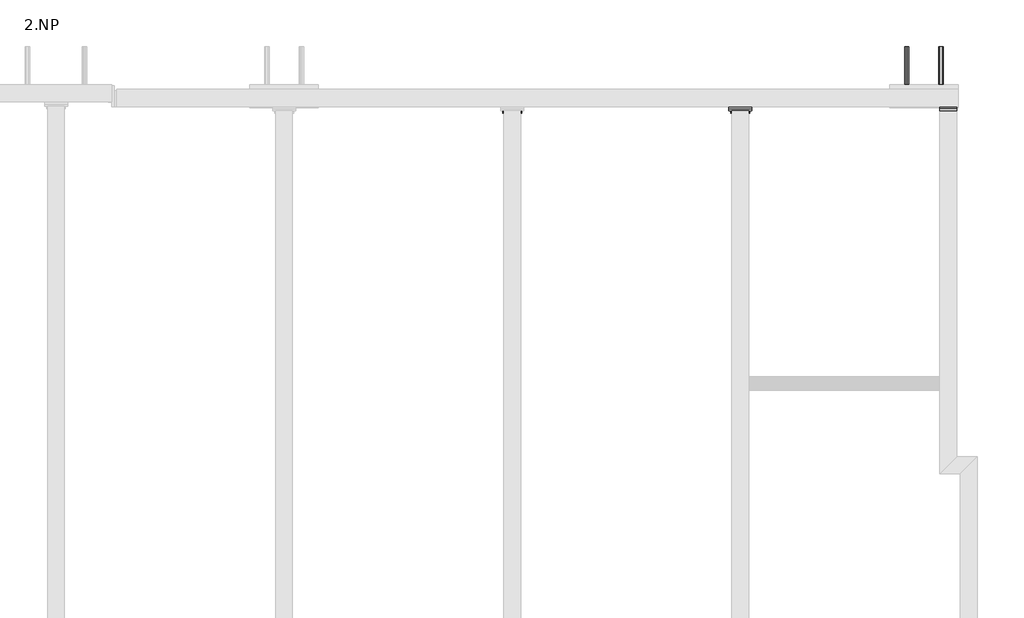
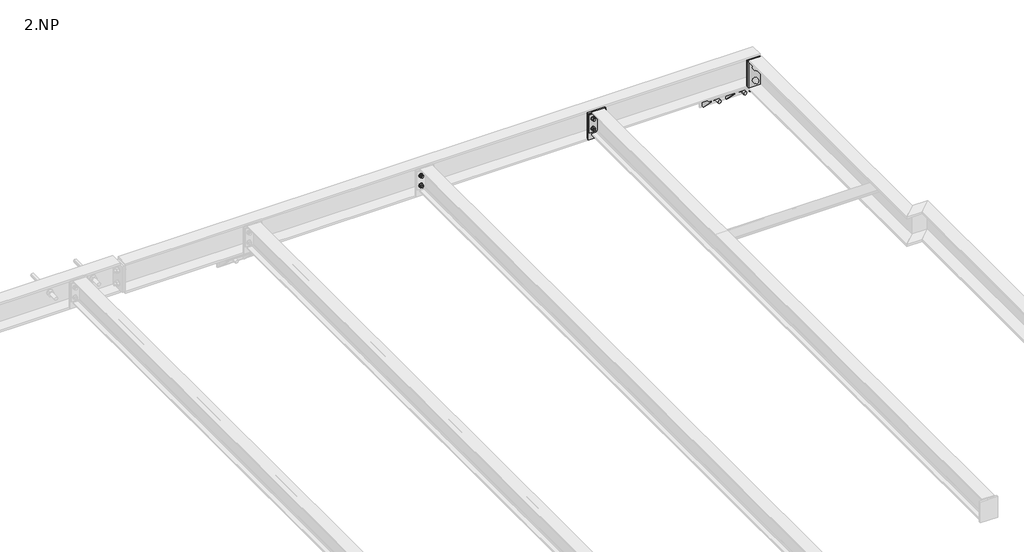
# One storey, part 15 of 18: 12 proxies.
"""IFC4 building model written with IfcOpenShell, lengths in millimetres."""

from ifc_helpers import new_model, si_unit, point, frame, frame_2d, origin, place, context, project, spatial, polyline, circle_curve, trimmed, segment, composite_curve, outline, extrude, element, save

model = new_model("IFC4")

# Units and contexts
model_context = context("Model", 3, world=origin())
ifc_project = project(units=[si_unit("LENGTHUNIT", "METRE", prefix="MILLI")], contexts=[model_context])

# Site, building, storey
site = spatial("IfcSite", under=ifc_project)
building = spatial("IfcBuilding", under=site)
storey = spatial("IfcBuildingStorey", under=building, Name="2.NP", Elevation=3000.0)

# Proxies
placement = place(None, origin())
element("IfcBuildingElementProxy", 1, Name="PLECH", ObjectType="PLECH", at=placement, inside=storey, context=model_context, shape_type="SweptSolid", body=[
    extrude(outline(polyline([(15000.0, 3755.0), (15100.0, 3755.0), (15100.0, 3747.0), (15000.0, 3747.0), (15000.0, 3755.0)])), frame((0.0, 0.0, 3175.0), z_axis=(0.0, 0.0, 1.0), x_axis=(1.0, 0.0, 0.0)), (0.0, 0.0, 1.0), 110.0),
])
element("IfcBuildingElementProxy", 2, Name="PLECH", ObjectType="PLECH", at=placement, inside=storey, context=model_context, shape_type="SweptSolid", body=[
    extrude(outline(polyline([(15925.0, 3755.0), (16000.0, 3755.0), (16000.0, 3745.0), (15925.0, 3745.0), (15925.0, 3755.0)])), frame((0.0, 0.0, 3130.0), z_axis=(0.0, 0.0, 1.0), x_axis=(1.0, 0.0, 0.0)), (0.0, 0.0, 1.0), 160.0),
])
element("IfcBuildingElementProxy", 3, Name="PLECH", ObjectType="PLECH", at=placement, inside=storey, context=model_context, shape_type="SweptSolid", body=[
    extrude(outline(composite_curve([segment(polyline([(3770.0, 3110.0), (3835.0, 3110.0)]), True, "CONTINUOUS"), segment(trimmed(circle_curve(frame_2d((3850.0, 3110.0)), 15.0), [point((3835.0, 3110.0))], [point((3850.0, 3095.0))], True, "CARTESIAN"), True, "CONTINUOUS"), segment(polyline([(3850.0, 3095.0), (3850.0, 3030.0), (3840.0, 3030.0), (3770.0, 3100.0), (3770.0, 3110.0)]), True, "CONTINUOUS")], self_intersect=False)), frame((15715.0, 0.0, 0.0), z_axis=(1.0, 0.0, 0.0), x_axis=(0.0, 1.0, 0.0)), (0.0, 0.0, 1.0), 8.0),
])
element("IfcBuildingElementProxy", 4, Name="PLECH", ObjectType="PLECH", at=placement, inside=storey, context=model_context, shape_type="SweptSolid", body=[
    extrude(outline(composite_curve([segment(polyline([(3770.0, 3110.0), (3835.0, 3110.0)]), True, "CONTINUOUS"), segment(trimmed(circle_curve(frame_2d((3850.0, 3110.0)), 15.0), [point((3835.0, 3110.0))], [point((3850.0, 3095.0))], True, "CARTESIAN"), True, "CONTINUOUS"), segment(polyline([(3850.0, 3095.0), (3850.0, 3030.0), (3840.0, 3030.0), (3770.0, 3100.0), (3770.0, 3110.0)]), True, "CONTINUOUS")], self_intersect=False)), frame((15987.0, 0.0, 0.0), z_axis=(1.0, 0.0, 0.0), x_axis=(0.0, 1.0, 0.0)), (0.0, 0.0, 1.0), 8.0),
])
element("IfcBuildingElementProxy", 5, Name="PLECH", ObjectType="PLECH", at=placement, inside=storey, context=model_context, shape_type="SweptSolid", body=[
    extrude(outline(composite_curve([segment(polyline([(3770.0, 3110.0), (3835.0, 3110.0)]), True, "CONTINUOUS"), segment(trimmed(circle_curve(frame_2d((3850.0, 3110.0)), 15.0), [point((3835.0, 3110.0))], [point((3850.0, 3095.0))], True, "CARTESIAN"), True, "CONTINUOUS"), segment(polyline([(3850.0, 3095.0), (3850.0, 3030.0), (3840.0, 3030.0), (3770.0, 3100.0), (3770.0, 3110.0)]), True, "CONTINUOUS")], self_intersect=False)), frame((15851.0, 0.0, 0.0), z_axis=(1.0, 0.0, 0.0), x_axis=(0.0, 1.0, 0.0)), (0.0, 0.0, 1.0), 8.0),
])
element("IfcBuildingElementProxy", 6, Name="PLECH", ObjectType="PLECH", at=placement, inside=storey, context=model_context, shape_type="SweptSolid", body=[
    extrude(outline(polyline([(15000.0, 3765.0), (15100.0, 3765.0), (15100.0, 3755.0), (15000.0, 3755.0), (15000.0, 3765.0)])), frame((0.0, 0.0, 3128.0), z_axis=(0.0, 0.0, 1.0), x_axis=(1.0, 0.0, 0.0)), (0.0, 0.0, 1.0), 164.0),
])
element("IfcBuildingElementProxy", 7, Name="PLECH", ObjectType="PLECH", at=placement, inside=storey, context=model_context, shape_type="SweptSolid", body=[
    extrude(outline(composite_curve([segment(polyline([(3765.0, 3289.5), (3814.5, 3289.5)]), True, "CONTINUOUS"), segment(trimmed(circle_curve(frame_2d((3834.5, 3289.5)), 20.0), [point((3814.5, 3289.5))], [point((3834.5, 3269.5))], True, "CARTESIAN"), True, "CONTINUOUS"), segment(polyline([(3834.5, 3269.5), (3834.5, 3150.5)]), True, "CONTINUOUS"), segment(trimmed(circle_curve(frame_2d((3834.5, 3130.5)), 20.0), [point((3834.5, 3150.5))], [point((3814.5, 3130.5))], True, "CARTESIAN"), True, "CONTINUOUS"), segment(polyline([(3814.5, 3130.5), (3765.0, 3130.5), (3765.0, 3289.5)]), True, "CONTINUOUS")], self_intersect=False)), frame((15047.0, 0.0, 0.0), z_axis=(1.0, 0.0, 0.0), x_axis=(0.0, 1.0, 0.0)), (0.0, 0.0, 1.0), 6.0),
])
element("IfcBuildingElementProxy", 8, Name="PLECH", ObjectType="PLECH", at=placement, inside=storey, context=model_context, shape_type="SweptSolid", body=[
    extrude(outline(polyline([(15925.0, 3765.0), (16000.0, 3765.0), (16000.0, 3755.0), (15925.0, 3755.0), (15925.0, 3765.0)])), frame((0.0, 0.0, 3130.0), z_axis=(0.0, 0.0, 1.0), x_axis=(1.0, 0.0, 0.0)), (0.0, 0.0, 1.0), 160.0),
])
element("IfcBuildingElementProxy", 9, Name="PLECH", ObjectType="PLECH", at=placement, inside=storey, context=model_context, shape_type="SweptSolid", body=[
    extrude(outline(composite_curve([segment(polyline([(3765.0, 3289.5), (3814.5, 3289.5)]), True, "CONTINUOUS"), segment(trimmed(circle_curve(frame_2d((3834.5, 3289.5)), 20.0), [point((3814.5, 3289.5))], [point((3834.5, 3269.5))], True, "CARTESIAN"), True, "CONTINUOUS"), segment(polyline([(3834.5, 3269.5), (3834.5, 3150.5)]), True, "CONTINUOUS"), segment(trimmed(circle_curve(frame_2d((3834.5, 3130.5)), 20.0), [point((3834.5, 3150.5))], [point((3814.5, 3130.5))], True, "CARTESIAN"), True, "CONTINUOUS"), segment(polyline([(3814.5, 3130.5), (3765.0, 3130.5), (3765.0, 3289.5)]), True, "CONTINUOUS")], self_intersect=False)), frame((15986.5, 0.0, 0.0), z_axis=(1.0, 0.0, 0.0), x_axis=(0.0, 1.0, 0.0)), (0.0, 0.0, 1.0), 8.0),
])
element("IfcBuildingElementProxy", 10, Name="Bolt assembly", ObjectType="Bolt assembly", at=placement, inside=storey, context=model_context, shape_type="SweptSolid", body=[
    extrude(outline(polyline([(3070.0, 15789.8149546), (3078.5, 15784.9074773), (3078.5, 15775.0925227), (3070.0, 15770.1850454), (3061.5, 15775.0925227), (3061.5, 15784.9074773), (3070.0, 15789.8149546)])), frame((0.0, 3860.0, 0.0), z_axis=(0.0, 1.0, 0.0), x_axis=(0.0, 0.0, 1.0)), (0.0, 0.0, 1.0), 168.0),
    extrude(outline(composite_curve([segment(trimmed(circle_curve(frame_2d((3070.0, 15780.0)), 10.0), [point((3070.0, 15790.0))], [point((3070.0, 15770.0))], False, "CARTESIAN"), True, "CONTINUOUS"), segment(trimmed(circle_curve(frame_2d((3070.0, 15780.0)), 10.0), [point((3070.0, 15770.0))], [point((3070.0, 15790.0))], False, "CARTESIAN"), True, "CONTINUOUS")], self_intersect=False)), frame((0.0, 3788.0, 0.0), z_axis=(0.0, 1.0, 0.0), x_axis=(0.0, 0.0, 1.0)), (0.0, 0.0, 1.0), 72.0),
    extrude(outline(composite_curve([segment(trimmed(circle_curve(frame_2d((3070.0, 15780.0)), 18.5), [point((3070.0, 15798.5))], [point((3070.0, 15761.5))], False, "CARTESIAN"), True, "CONTINUOUS"), segment(trimmed(circle_curve(frame_2d((3070.0, 15780.0)), 18.5), [point((3070.0, 15761.5))], [point((3070.0, 15798.5))], False, "CARTESIAN"), True, "CONTINUOUS")], self_intersect=False)), frame((0.0, 3847.0, 0.0), z_axis=(0.0, 1.0, 0.0), x_axis=(0.0, 0.0, 1.0)), (0.0, 0.0, 1.0), 3.0),
    extrude(outline(polyline([(3070.0, 15797.3205081), (3085.0, 15788.660254), (3085.0, 15771.339746), (3070.0, 15762.6794919), (3055.0, 15771.339746), (3055.0, 15788.660254), (3070.0, 15797.3205081)])), frame((0.0, 3831.0, 0.0), z_axis=(0.0, 1.0, 0.0), x_axis=(0.0, 0.0, 1.0)), (0.0, 0.0, 1.0), 16.0),
    extrude(outline(composite_curve([segment(trimmed(circle_curve(frame_2d((3070.0, 15780.0)), 11.0), [point((3070.0, 15791.0))], [point((3070.0, 15769.0))], False, "CARTESIAN"), True, "CONTINUOUS"), segment(trimmed(circle_curve(frame_2d((3070.0, 15780.0)), 11.0), [point((3070.0, 15769.0))], [point((3070.0, 15791.0))], False, "CARTESIAN"), True, "CONTINUOUS")], self_intersect=False)), frame((0.0, 3849.9, 0.0), z_axis=(0.0, 1.0, 0.0), x_axis=(0.0, 0.0, 1.0)), (0.0, 0.0, 1.0), 10.1),
    extrude(outline(polyline([(3070.0, 15939.8149546), (3078.5, 15934.9074773), (3078.5, 15925.0925227), (3070.0, 15920.1850454), (3061.5, 15925.0925227), (3061.5, 15934.9074773), (3070.0, 15939.8149546)])), frame((0.0, 3860.0, 0.0), z_axis=(0.0, 1.0, 0.0), x_axis=(0.0, 0.0, 1.0)), (0.0, 0.0, 1.0), 168.0),
    extrude(outline(composite_curve([segment(trimmed(circle_curve(frame_2d((3070.0, 15930.0)), 10.0), [point((3070.0, 15940.0))], [point((3070.0, 15920.0))], False, "CARTESIAN"), True, "CONTINUOUS"), segment(trimmed(circle_curve(frame_2d((3070.0, 15930.0)), 10.0), [point((3070.0, 15920.0))], [point((3070.0, 15940.0))], False, "CARTESIAN"), True, "CONTINUOUS")], self_intersect=False)), frame((0.0, 3788.0, 0.0), z_axis=(0.0, 1.0, 0.0), x_axis=(0.0, 0.0, 1.0)), (0.0, 0.0, 1.0), 72.0),
    extrude(outline(composite_curve([segment(trimmed(circle_curve(frame_2d((3070.0, 15930.0)), 18.5), [point((3070.0, 15948.5))], [point((3070.0, 15911.5))], False, "CARTESIAN"), True, "CONTINUOUS"), segment(trimmed(circle_curve(frame_2d((3070.0, 15930.0)), 18.5), [point((3070.0, 15911.5))], [point((3070.0, 15948.5))], False, "CARTESIAN"), True, "CONTINUOUS")], self_intersect=False)), frame((0.0, 3847.0, 0.0), z_axis=(0.0, 1.0, 0.0), x_axis=(0.0, 0.0, 1.0)), (0.0, 0.0, 1.0), 3.0),
    extrude(outline(polyline([(3070.0, 15947.3205081), (3085.0, 15938.660254), (3085.0, 15921.339746), (3070.0, 15912.6794919), (3055.0, 15921.339746), (3055.0, 15938.660254), (3070.0, 15947.3205081)])), frame((0.0, 3831.0, 0.0), z_axis=(0.0, 1.0, 0.0), x_axis=(0.0, 0.0, 1.0)), (0.0, 0.0, 1.0), 16.0),
    extrude(outline(composite_curve([segment(trimmed(circle_curve(frame_2d((3070.0, 15930.0)), 11.0), [point((3070.0, 15941.0))], [point((3070.0, 15919.0))], False, "CARTESIAN"), True, "CONTINUOUS"), segment(trimmed(circle_curve(frame_2d((3070.0, 15930.0)), 11.0), [point((3070.0, 15919.0))], [point((3070.0, 15941.0))], False, "CARTESIAN"), True, "CONTINUOUS")], self_intersect=False)), frame((0.0, 3849.9, 0.0), z_axis=(0.0, 1.0, 0.0), x_axis=(0.0, 0.0, 1.0)), (0.0, 0.0, 1.0), 10.1),
])
element("IfcBuildingElementProxy", 11, Name="Bolt assembly", ObjectType="Bolt assembly", at=placement, inside=storey, context=model_context, shape_type="SweptSolid", body=[
    extrude(outline(composite_curve([segment(trimmed(circle_curve(frame_2d((3260.0, 14020.0)), 6.5), [point((3260.0, 14026.5))], [point((3260.0, 14013.5))], False, "CARTESIAN"), True, "CONTINUOUS"), segment(trimmed(circle_curve(frame_2d((3260.0, 14020.0)), 6.5), [point((3260.0, 14013.5))], [point((3260.0, 14026.5))], False, "CARTESIAN"), True, "CONTINUOUS")], self_intersect=False)), frame((0.0, 3754.9, 0.0), z_axis=(0.0, 1.0, 0.0), x_axis=(0.0, 0.0, 1.0)), (0.0, 0.0, 1.0), 10.0),
    extrude(outline(polyline([(3260.0, 14030.9696551), (3269.5, 14025.4848276), (3269.5, 14014.5151724), (3260.0, 14009.0303449), (3250.5, 14014.5151724), (3250.5, 14025.4848276), (3260.0, 14030.9696551)])), frame((0.0, 3767.5, 0.0), z_axis=(0.0, 1.0, 0.0), x_axis=(0.0, 0.0, 1.0)), (0.0, 0.0, 1.0), 7.5),
    extrude(outline(composite_curve([segment(trimmed(circle_curve(frame_2d((3260.0, 14020.0)), 6.0), [point((3260.0, 14026.0))], [point((3260.0, 14014.0))], False, "CARTESIAN"), True, "CONTINUOUS"), segment(trimmed(circle_curve(frame_2d((3260.0, 14020.0)), 6.0), [point((3260.0, 14014.0))], [point((3260.0, 14026.0))], False, "CARTESIAN"), True, "CONTINUOUS")], self_intersect=False)), frame((0.0, 3727.5, 0.0), z_axis=(0.0, 1.0, 0.0), x_axis=(0.0, 0.0, 1.0)), (0.0, 0.0, 1.0), 40.0),
    extrude(outline(composite_curve([segment(trimmed(circle_curve(frame_2d((3260.0, 14020.0)), 12.0), [point((3260.0, 14032.0))], [point((3260.0, 14008.0))], False, "CARTESIAN"), True, "CONTINUOUS"), segment(trimmed(circle_curve(frame_2d((3260.0, 14020.0)), 12.0), [point((3260.0, 14008.0))], [point((3260.0, 14032.0))], False, "CARTESIAN"), True, "CONTINUOUS")], self_intersect=False)), frame((0.0, 3765.0, 0.0), z_axis=(0.0, 1.0, 0.0), x_axis=(0.0, 0.0, 1.0)), (0.0, 0.0, 1.0), 2.5),
    extrude(outline(composite_curve([segment(trimmed(circle_curve(frame_2d((3260.0, 14020.0)), 12.0), [point((3260.0, 14032.0))], [point((3260.0, 14008.0))], False, "CARTESIAN"), True, "CONTINUOUS"), segment(trimmed(circle_curve(frame_2d((3260.0, 14020.0)), 12.0), [point((3260.0, 14008.0))], [point((3260.0, 14032.0))], False, "CARTESIAN"), True, "CONTINUOUS")], self_intersect=False)), frame((0.0, 3744.5, 0.0), z_axis=(0.0, 1.0, 0.0), x_axis=(0.0, 0.0, 1.0)), (0.0, 0.0, 1.0), 2.5),
    extrude(outline(polyline([(3260.0, 14030.9696551), (3269.5, 14025.4848276), (3269.5, 14014.5151724), (3260.0, 14009.0303449), (3250.5, 14014.5151724), (3250.5, 14025.4848276), (3260.0, 14030.9696551)])), frame((0.0, 3734.5, 0.0), z_axis=(0.0, 1.0, 0.0), x_axis=(0.0, 0.0, 1.0)), (0.0, 0.0, 1.0), 10.0),
    extrude(outline(composite_curve([segment(trimmed(circle_curve(frame_2d((3260.0, 14020.0)), 6.5), [point((3260.0, 14026.5))], [point((3260.0, 14013.5))], False, "CARTESIAN"), True, "CONTINUOUS"), segment(trimmed(circle_curve(frame_2d((3260.0, 14020.0)), 6.5), [point((3260.0, 14013.5))], [point((3260.0, 14026.5))], False, "CARTESIAN"), True, "CONTINUOUS")], self_intersect=False)), frame((0.0, 3747.0, 0.0), z_axis=(0.0, 1.0, 0.0), x_axis=(0.0, 0.0, 1.0)), (0.0, 0.0, 1.0), 8.1),
    extrude(outline(composite_curve([segment(trimmed(circle_curve(frame_2d((3260.0, 14080.0)), 6.5), [point((3260.0, 14086.5))], [point((3260.0, 14073.5))], False, "CARTESIAN"), True, "CONTINUOUS"), segment(trimmed(circle_curve(frame_2d((3260.0, 14080.0)), 6.5), [point((3260.0, 14073.5))], [point((3260.0, 14086.5))], False, "CARTESIAN"), True, "CONTINUOUS")], self_intersect=False)), frame((0.0, 3754.9, 0.0), z_axis=(0.0, 1.0, 0.0), x_axis=(0.0, 0.0, 1.0)), (0.0, 0.0, 1.0), 10.0),
    extrude(outline(polyline([(3260.0, 14090.9696551), (3269.5, 14085.4848276), (3269.5, 14074.5151724), (3260.0, 14069.0303449), (3250.5, 14074.5151724), (3250.5, 14085.4848276), (3260.0, 14090.9696551)])), frame((0.0, 3767.5, 0.0), z_axis=(0.0, 1.0, 0.0), x_axis=(0.0, 0.0, 1.0)), (0.0, 0.0, 1.0), 7.5),
    extrude(outline(composite_curve([segment(trimmed(circle_curve(frame_2d((3260.0, 14080.0)), 6.0), [point((3260.0, 14086.0))], [point((3260.0, 14074.0))], False, "CARTESIAN"), True, "CONTINUOUS"), segment(trimmed(circle_curve(frame_2d((3260.0, 14080.0)), 6.0), [point((3260.0, 14074.0))], [point((3260.0, 14086.0))], False, "CARTESIAN"), True, "CONTINUOUS")], self_intersect=False)), frame((0.0, 3727.5, 0.0), z_axis=(0.0, 1.0, 0.0), x_axis=(0.0, 0.0, 1.0)), (0.0, 0.0, 1.0), 40.0),
    extrude(outline(composite_curve([segment(trimmed(circle_curve(frame_2d((3260.0, 14080.0)), 12.0), [point((3260.0, 14092.0))], [point((3260.0, 14068.0))], False, "CARTESIAN"), True, "CONTINUOUS"), segment(trimmed(circle_curve(frame_2d((3260.0, 14080.0)), 12.0), [point((3260.0, 14068.0))], [point((3260.0, 14092.0))], False, "CARTESIAN"), True, "CONTINUOUS")], self_intersect=False)), frame((0.0, 3765.0, 0.0), z_axis=(0.0, 1.0, 0.0), x_axis=(0.0, 0.0, 1.0)), (0.0, 0.0, 1.0), 2.5),
    extrude(outline(composite_curve([segment(trimmed(circle_curve(frame_2d((3260.0, 14080.0)), 12.0), [point((3260.0, 14092.0))], [point((3260.0, 14068.0))], False, "CARTESIAN"), True, "CONTINUOUS"), segment(trimmed(circle_curve(frame_2d((3260.0, 14080.0)), 12.0), [point((3260.0, 14068.0))], [point((3260.0, 14092.0))], False, "CARTESIAN"), True, "CONTINUOUS")], self_intersect=False)), frame((0.0, 3744.5, 0.0), z_axis=(0.0, 1.0, 0.0), x_axis=(0.0, 0.0, 1.0)), (0.0, 0.0, 1.0), 2.5),
    extrude(outline(polyline([(3260.0, 14090.9696551), (3269.5, 14085.4848276), (3269.5, 14074.5151724), (3260.0, 14069.0303449), (3250.5, 14074.5151724), (3250.5, 14085.4848276), (3260.0, 14090.9696551)])), frame((0.0, 3734.5, 0.0), z_axis=(0.0, 1.0, 0.0), x_axis=(0.0, 0.0, 1.0)), (0.0, 0.0, 1.0), 10.0),
    extrude(outline(composite_curve([segment(trimmed(circle_curve(frame_2d((3260.0, 14080.0)), 6.5), [point((3260.0, 14086.5))], [point((3260.0, 14073.5))], False, "CARTESIAN"), True, "CONTINUOUS"), segment(trimmed(circle_curve(frame_2d((3260.0, 14080.0)), 6.5), [point((3260.0, 14073.5))], [point((3260.0, 14086.5))], False, "CARTESIAN"), True, "CONTINUOUS")], self_intersect=False)), frame((0.0, 3747.0, 0.0), z_axis=(0.0, 1.0, 0.0), x_axis=(0.0, 0.0, 1.0)), (0.0, 0.0, 1.0), 8.1),
    extrude(outline(composite_curve([segment(trimmed(circle_curve(frame_2d((3200.0, 14020.0)), 6.5), [point((3200.0, 14026.5))], [point((3200.0, 14013.5))], False, "CARTESIAN"), True, "CONTINUOUS"), segment(trimmed(circle_curve(frame_2d((3200.0, 14020.0)), 6.5), [point((3200.0, 14013.5))], [point((3200.0, 14026.5))], False, "CARTESIAN"), True, "CONTINUOUS")], self_intersect=False)), frame((0.0, 3754.9, 0.0), z_axis=(0.0, 1.0, 0.0), x_axis=(0.0, 0.0, 1.0)), (0.0, 0.0, 1.0), 10.0),
    extrude(outline(polyline([(3200.0, 14030.9696551), (3209.5, 14025.4848276), (3209.5, 14014.5151724), (3200.0, 14009.0303449), (3190.5, 14014.5151724), (3190.5, 14025.4848276), (3200.0, 14030.9696551)])), frame((0.0, 3767.5, 0.0), z_axis=(0.0, 1.0, 0.0), x_axis=(0.0, 0.0, 1.0)), (0.0, 0.0, 1.0), 7.5),
    extrude(outline(composite_curve([segment(trimmed(circle_curve(frame_2d((3200.0, 14020.0)), 6.0), [point((3200.0, 14026.0))], [point((3200.0, 14014.0))], False, "CARTESIAN"), True, "CONTINUOUS"), segment(trimmed(circle_curve(frame_2d((3200.0, 14020.0)), 6.0), [point((3200.0, 14014.0))], [point((3200.0, 14026.0))], False, "CARTESIAN"), True, "CONTINUOUS")], self_intersect=False)), frame((0.0, 3727.5, 0.0), z_axis=(0.0, 1.0, 0.0), x_axis=(0.0, 0.0, 1.0)), (0.0, 0.0, 1.0), 40.0),
    extrude(outline(composite_curve([segment(trimmed(circle_curve(frame_2d((3200.0, 14020.0)), 12.0), [point((3200.0, 14032.0))], [point((3200.0, 14008.0))], False, "CARTESIAN"), True, "CONTINUOUS"), segment(trimmed(circle_curve(frame_2d((3200.0, 14020.0)), 12.0), [point((3200.0, 14008.0))], [point((3200.0, 14032.0))], False, "CARTESIAN"), True, "CONTINUOUS")], self_intersect=False)), frame((0.0, 3765.0, 0.0), z_axis=(0.0, 1.0, 0.0), x_axis=(0.0, 0.0, 1.0)), (0.0, 0.0, 1.0), 2.5),
    extrude(outline(composite_curve([segment(trimmed(circle_curve(frame_2d((3200.0, 14020.0)), 12.0), [point((3200.0, 14032.0))], [point((3200.0, 14008.0))], False, "CARTESIAN"), True, "CONTINUOUS"), segment(trimmed(circle_curve(frame_2d((3200.0, 14020.0)), 12.0), [point((3200.0, 14008.0))], [point((3200.0, 14032.0))], False, "CARTESIAN"), True, "CONTINUOUS")], self_intersect=False)), frame((0.0, 3744.5, 0.0), z_axis=(0.0, 1.0, 0.0), x_axis=(0.0, 0.0, 1.0)), (0.0, 0.0, 1.0), 2.5),
    extrude(outline(polyline([(3200.0, 14030.9696551), (3209.5, 14025.4848276), (3209.5, 14014.5151724), (3200.0, 14009.0303449), (3190.5, 14014.5151724), (3190.5, 14025.4848276), (3200.0, 14030.9696551)])), frame((0.0, 3734.5, 0.0), z_axis=(0.0, 1.0, 0.0), x_axis=(0.0, 0.0, 1.0)), (0.0, 0.0, 1.0), 10.0),
    extrude(outline(composite_curve([segment(trimmed(circle_curve(frame_2d((3200.0, 14020.0)), 6.5), [point((3200.0, 14026.5))], [point((3200.0, 14013.5))], False, "CARTESIAN"), True, "CONTINUOUS"), segment(trimmed(circle_curve(frame_2d((3200.0, 14020.0)), 6.5), [point((3200.0, 14013.5))], [point((3200.0, 14026.5))], False, "CARTESIAN"), True, "CONTINUOUS")], self_intersect=False)), frame((0.0, 3747.0, 0.0), z_axis=(0.0, 1.0, 0.0), x_axis=(0.0, 0.0, 1.0)), (0.0, 0.0, 1.0), 8.1),
    extrude(outline(composite_curve([segment(trimmed(circle_curve(frame_2d((3200.0, 14080.0)), 6.5), [point((3200.0, 14086.5))], [point((3200.0, 14073.5))], False, "CARTESIAN"), True, "CONTINUOUS"), segment(trimmed(circle_curve(frame_2d((3200.0, 14080.0)), 6.5), [point((3200.0, 14073.5))], [point((3200.0, 14086.5))], False, "CARTESIAN"), True, "CONTINUOUS")], self_intersect=False)), frame((0.0, 3754.9, 0.0), z_axis=(0.0, 1.0, 0.0), x_axis=(0.0, 0.0, 1.0)), (0.0, 0.0, 1.0), 10.0),
    extrude(outline(polyline([(3200.0, 14090.9696551), (3209.5, 14085.4848276), (3209.5, 14074.5151724), (3200.0, 14069.0303449), (3190.5, 14074.5151724), (3190.5, 14085.4848276), (3200.0, 14090.9696551)])), frame((0.0, 3767.5, 0.0), z_axis=(0.0, 1.0, 0.0), x_axis=(0.0, 0.0, 1.0)), (0.0, 0.0, 1.0), 7.5),
    extrude(outline(composite_curve([segment(trimmed(circle_curve(frame_2d((3200.0, 14080.0)), 6.0), [point((3200.0, 14086.0))], [point((3200.0, 14074.0))], False, "CARTESIAN"), True, "CONTINUOUS"), segment(trimmed(circle_curve(frame_2d((3200.0, 14080.0)), 6.0), [point((3200.0, 14074.0))], [point((3200.0, 14086.0))], False, "CARTESIAN"), True, "CONTINUOUS")], self_intersect=False)), frame((0.0, 3727.5, 0.0), z_axis=(0.0, 1.0, 0.0), x_axis=(0.0, 0.0, 1.0)), (0.0, 0.0, 1.0), 40.0),
    extrude(outline(composite_curve([segment(trimmed(circle_curve(frame_2d((3200.0, 14080.0)), 12.0), [point((3200.0, 14092.0))], [point((3200.0, 14068.0))], False, "CARTESIAN"), True, "CONTINUOUS"), segment(trimmed(circle_curve(frame_2d((3200.0, 14080.0)), 12.0), [point((3200.0, 14068.0))], [point((3200.0, 14092.0))], False, "CARTESIAN"), True, "CONTINUOUS")], self_intersect=False)), frame((0.0, 3765.0, 0.0), z_axis=(0.0, 1.0, 0.0), x_axis=(0.0, 0.0, 1.0)), (0.0, 0.0, 1.0), 2.5),
    extrude(outline(composite_curve([segment(trimmed(circle_curve(frame_2d((3200.0, 14080.0)), 12.0), [point((3200.0, 14092.0))], [point((3200.0, 14068.0))], False, "CARTESIAN"), True, "CONTINUOUS"), segment(trimmed(circle_curve(frame_2d((3200.0, 14080.0)), 12.0), [point((3200.0, 14068.0))], [point((3200.0, 14092.0))], False, "CARTESIAN"), True, "CONTINUOUS")], self_intersect=False)), frame((0.0, 3744.5, 0.0), z_axis=(0.0, 1.0, 0.0), x_axis=(0.0, 0.0, 1.0)), (0.0, 0.0, 1.0), 2.5),
    extrude(outline(polyline([(3200.0, 14090.9696551), (3209.5, 14085.4848276), (3209.5, 14074.5151724), (3200.0, 14069.0303449), (3190.5, 14074.5151724), (3190.5, 14085.4848276), (3200.0, 14090.9696551)])), frame((0.0, 3734.5, 0.0), z_axis=(0.0, 1.0, 0.0), x_axis=(0.0, 0.0, 1.0)), (0.0, 0.0, 1.0), 10.0),
    extrude(outline(composite_curve([segment(trimmed(circle_curve(frame_2d((3200.0, 14080.0)), 6.5), [point((3200.0, 14086.5))], [point((3200.0, 14073.5))], False, "CARTESIAN"), True, "CONTINUOUS"), segment(trimmed(circle_curve(frame_2d((3200.0, 14080.0)), 6.5), [point((3200.0, 14073.5))], [point((3200.0, 14086.5))], False, "CARTESIAN"), True, "CONTINUOUS")], self_intersect=False)), frame((0.0, 3747.0, 0.0), z_axis=(0.0, 1.0, 0.0), x_axis=(0.0, 0.0, 1.0)), (0.0, 0.0, 1.0), 8.1),
])
element("IfcBuildingElementProxy", 12, Name="Bolt assembly", ObjectType="Bolt assembly", at=placement, inside=storey, context=model_context, shape_type="SweptSolid", body=[
    extrude(outline(composite_curve([segment(trimmed(circle_curve(frame_2d((3260.0, 15020.0)), 6.5), [point((3260.0, 15026.5))], [point((3260.0, 15013.5))], False, "CARTESIAN"), True, "CONTINUOUS"), segment(trimmed(circle_curve(frame_2d((3260.0, 15020.0)), 6.5), [point((3260.0, 15013.5))], [point((3260.0, 15026.5))], False, "CARTESIAN"), True, "CONTINUOUS")], self_intersect=False)), frame((0.0, 3754.9, 0.0), z_axis=(0.0, 1.0, 0.0), x_axis=(0.0, 0.0, 1.0)), (0.0, 0.0, 1.0), 10.0),
    extrude(outline(polyline([(3260.0, 15030.9696551), (3269.5, 15025.4848276), (3269.5, 15014.5151724), (3260.0, 15009.0303449), (3250.5, 15014.5151724), (3250.5, 15025.4848276), (3260.0, 15030.9696551)])), frame((0.0, 3767.5, 0.0), z_axis=(0.0, 1.0, 0.0), x_axis=(0.0, 0.0, 1.0)), (0.0, 0.0, 1.0), 7.5),
    extrude(outline(composite_curve([segment(trimmed(circle_curve(frame_2d((3260.0, 15020.0)), 6.0), [point((3260.0, 15026.0))], [point((3260.0, 15014.0))], False, "CARTESIAN"), True, "CONTINUOUS"), segment(trimmed(circle_curve(frame_2d((3260.0, 15020.0)), 6.0), [point((3260.0, 15014.0))], [point((3260.0, 15026.0))], False, "CARTESIAN"), True, "CONTINUOUS")], self_intersect=False)), frame((0.0, 3727.5, 0.0), z_axis=(0.0, 1.0, 0.0), x_axis=(0.0, 0.0, 1.0)), (0.0, 0.0, 1.0), 40.0),
    extrude(outline(composite_curve([segment(trimmed(circle_curve(frame_2d((3260.0, 15020.0)), 12.0), [point((3260.0, 15032.0))], [point((3260.0, 15008.0))], False, "CARTESIAN"), True, "CONTINUOUS"), segment(trimmed(circle_curve(frame_2d((3260.0, 15020.0)), 12.0), [point((3260.0, 15008.0))], [point((3260.0, 15032.0))], False, "CARTESIAN"), True, "CONTINUOUS")], self_intersect=False)), frame((0.0, 3765.0, 0.0), z_axis=(0.0, 1.0, 0.0), x_axis=(0.0, 0.0, 1.0)), (0.0, 0.0, 1.0), 2.5),
    extrude(outline(composite_curve([segment(trimmed(circle_curve(frame_2d((3260.0, 15020.0)), 12.0), [point((3260.0, 15032.0))], [point((3260.0, 15008.0))], False, "CARTESIAN"), True, "CONTINUOUS"), segment(trimmed(circle_curve(frame_2d((3260.0, 15020.0)), 12.0), [point((3260.0, 15008.0))], [point((3260.0, 15032.0))], False, "CARTESIAN"), True, "CONTINUOUS")], self_intersect=False)), frame((0.0, 3744.5, 0.0), z_axis=(0.0, 1.0, 0.0), x_axis=(0.0, 0.0, 1.0)), (0.0, 0.0, 1.0), 2.5),
    extrude(outline(polyline([(3260.0, 15030.9696551), (3269.5, 15025.4848276), (3269.5, 15014.5151724), (3260.0, 15009.0303449), (3250.5, 15014.5151724), (3250.5, 15025.4848276), (3260.0, 15030.9696551)])), frame((0.0, 3734.5, 0.0), z_axis=(0.0, 1.0, 0.0), x_axis=(0.0, 0.0, 1.0)), (0.0, 0.0, 1.0), 10.0),
    extrude(outline(composite_curve([segment(trimmed(circle_curve(frame_2d((3260.0, 15020.0)), 6.5), [point((3260.0, 15026.5))], [point((3260.0, 15013.5))], False, "CARTESIAN"), True, "CONTINUOUS"), segment(trimmed(circle_curve(frame_2d((3260.0, 15020.0)), 6.5), [point((3260.0, 15013.5))], [point((3260.0, 15026.5))], False, "CARTESIAN"), True, "CONTINUOUS")], self_intersect=False)), frame((0.0, 3747.0, 0.0), z_axis=(0.0, 1.0, 0.0), x_axis=(0.0, 0.0, 1.0)), (0.0, 0.0, 1.0), 8.1),
    extrude(outline(composite_curve([segment(trimmed(circle_curve(frame_2d((3260.0, 15080.0)), 6.5), [point((3260.0, 15086.5))], [point((3260.0, 15073.5))], False, "CARTESIAN"), True, "CONTINUOUS"), segment(trimmed(circle_curve(frame_2d((3260.0, 15080.0)), 6.5), [point((3260.0, 15073.5))], [point((3260.0, 15086.5))], False, "CARTESIAN"), True, "CONTINUOUS")], self_intersect=False)), frame((0.0, 3754.9, 0.0), z_axis=(0.0, 1.0, 0.0), x_axis=(0.0, 0.0, 1.0)), (0.0, 0.0, 1.0), 10.0),
    extrude(outline(polyline([(3260.0, 15090.9696551), (3269.5, 15085.4848276), (3269.5, 15074.5151724), (3260.0, 15069.0303449), (3250.5, 15074.5151724), (3250.5, 15085.4848276), (3260.0, 15090.9696551)])), frame((0.0, 3767.5, 0.0), z_axis=(0.0, 1.0, 0.0), x_axis=(0.0, 0.0, 1.0)), (0.0, 0.0, 1.0), 7.5),
    extrude(outline(composite_curve([segment(trimmed(circle_curve(frame_2d((3260.0, 15080.0)), 6.0), [point((3260.0, 15086.0))], [point((3260.0, 15074.0))], False, "CARTESIAN"), True, "CONTINUOUS"), segment(trimmed(circle_curve(frame_2d((3260.0, 15080.0)), 6.0), [point((3260.0, 15074.0))], [point((3260.0, 15086.0))], False, "CARTESIAN"), True, "CONTINUOUS")], self_intersect=False)), frame((0.0, 3727.5, 0.0), z_axis=(0.0, 1.0, 0.0), x_axis=(0.0, 0.0, 1.0)), (0.0, 0.0, 1.0), 40.0),
    extrude(outline(composite_curve([segment(trimmed(circle_curve(frame_2d((3260.0, 15080.0)), 12.0), [point((3260.0, 15092.0))], [point((3260.0, 15068.0))], False, "CARTESIAN"), True, "CONTINUOUS"), segment(trimmed(circle_curve(frame_2d((3260.0, 15080.0)), 12.0), [point((3260.0, 15068.0))], [point((3260.0, 15092.0))], False, "CARTESIAN"), True, "CONTINUOUS")], self_intersect=False)), frame((0.0, 3765.0, 0.0), z_axis=(0.0, 1.0, 0.0), x_axis=(0.0, 0.0, 1.0)), (0.0, 0.0, 1.0), 2.5),
    extrude(outline(composite_curve([segment(trimmed(circle_curve(frame_2d((3260.0, 15080.0)), 12.0), [point((3260.0, 15092.0))], [point((3260.0, 15068.0))], False, "CARTESIAN"), True, "CONTINUOUS"), segment(trimmed(circle_curve(frame_2d((3260.0, 15080.0)), 12.0), [point((3260.0, 15068.0))], [point((3260.0, 15092.0))], False, "CARTESIAN"), True, "CONTINUOUS")], self_intersect=False)), frame((0.0, 3744.5, 0.0), z_axis=(0.0, 1.0, 0.0), x_axis=(0.0, 0.0, 1.0)), (0.0, 0.0, 1.0), 2.5),
    extrude(outline(polyline([(3260.0, 15090.9696551), (3269.5, 15085.4848276), (3269.5, 15074.5151724), (3260.0, 15069.0303449), (3250.5, 15074.5151724), (3250.5, 15085.4848276), (3260.0, 15090.9696551)])), frame((0.0, 3734.5, 0.0), z_axis=(0.0, 1.0, 0.0), x_axis=(0.0, 0.0, 1.0)), (0.0, 0.0, 1.0), 10.0),
    extrude(outline(composite_curve([segment(trimmed(circle_curve(frame_2d((3260.0, 15080.0)), 6.5), [point((3260.0, 15086.5))], [point((3260.0, 15073.5))], False, "CARTESIAN"), True, "CONTINUOUS"), segment(trimmed(circle_curve(frame_2d((3260.0, 15080.0)), 6.5), [point((3260.0, 15073.5))], [point((3260.0, 15086.5))], False, "CARTESIAN"), True, "CONTINUOUS")], self_intersect=False)), frame((0.0, 3747.0, 0.0), z_axis=(0.0, 1.0, 0.0), x_axis=(0.0, 0.0, 1.0)), (0.0, 0.0, 1.0), 8.1),
    extrude(outline(composite_curve([segment(trimmed(circle_curve(frame_2d((3200.0, 15020.0)), 6.5), [point((3200.0, 15026.5))], [point((3200.0, 15013.5))], False, "CARTESIAN"), True, "CONTINUOUS"), segment(trimmed(circle_curve(frame_2d((3200.0, 15020.0)), 6.5), [point((3200.0, 15013.5))], [point((3200.0, 15026.5))], False, "CARTESIAN"), True, "CONTINUOUS")], self_intersect=False)), frame((0.0, 3754.9, 0.0), z_axis=(0.0, 1.0, 0.0), x_axis=(0.0, 0.0, 1.0)), (0.0, 0.0, 1.0), 10.0),
    extrude(outline(polyline([(3200.0, 15030.9696551), (3209.5, 15025.4848276), (3209.5, 15014.5151724), (3200.0, 15009.0303449), (3190.5, 15014.5151724), (3190.5, 15025.4848276), (3200.0, 15030.9696551)])), frame((0.0, 3767.5, 0.0), z_axis=(0.0, 1.0, 0.0), x_axis=(0.0, 0.0, 1.0)), (0.0, 0.0, 1.0), 7.5),
    extrude(outline(composite_curve([segment(trimmed(circle_curve(frame_2d((3200.0, 15020.0)), 6.0), [point((3200.0, 15026.0))], [point((3200.0, 15014.0))], False, "CARTESIAN"), True, "CONTINUOUS"), segment(trimmed(circle_curve(frame_2d((3200.0, 15020.0)), 6.0), [point((3200.0, 15014.0))], [point((3200.0, 15026.0))], False, "CARTESIAN"), True, "CONTINUOUS")], self_intersect=False)), frame((0.0, 3727.5, 0.0), z_axis=(0.0, 1.0, 0.0), x_axis=(0.0, 0.0, 1.0)), (0.0, 0.0, 1.0), 40.0),
    extrude(outline(composite_curve([segment(trimmed(circle_curve(frame_2d((3200.0, 15020.0)), 12.0), [point((3200.0, 15032.0))], [point((3200.0, 15008.0))], False, "CARTESIAN"), True, "CONTINUOUS"), segment(trimmed(circle_curve(frame_2d((3200.0, 15020.0)), 12.0), [point((3200.0, 15008.0))], [point((3200.0, 15032.0))], False, "CARTESIAN"), True, "CONTINUOUS")], self_intersect=False)), frame((0.0, 3765.0, 0.0), z_axis=(0.0, 1.0, 0.0), x_axis=(0.0, 0.0, 1.0)), (0.0, 0.0, 1.0), 2.5),
    extrude(outline(composite_curve([segment(trimmed(circle_curve(frame_2d((3200.0, 15020.0)), 12.0), [point((3200.0, 15032.0))], [point((3200.0, 15008.0))], False, "CARTESIAN"), True, "CONTINUOUS"), segment(trimmed(circle_curve(frame_2d((3200.0, 15020.0)), 12.0), [point((3200.0, 15008.0))], [point((3200.0, 15032.0))], False, "CARTESIAN"), True, "CONTINUOUS")], self_intersect=False)), frame((0.0, 3744.5, 0.0), z_axis=(0.0, 1.0, 0.0), x_axis=(0.0, 0.0, 1.0)), (0.0, 0.0, 1.0), 2.5),
    extrude(outline(polyline([(3200.0, 15030.9696551), (3209.5, 15025.4848276), (3209.5, 15014.5151724), (3200.0, 15009.0303449), (3190.5, 15014.5151724), (3190.5, 15025.4848276), (3200.0, 15030.9696551)])), frame((0.0, 3734.5, 0.0), z_axis=(0.0, 1.0, 0.0), x_axis=(0.0, 0.0, 1.0)), (0.0, 0.0, 1.0), 10.0),
    extrude(outline(composite_curve([segment(trimmed(circle_curve(frame_2d((3200.0, 15020.0)), 6.5), [point((3200.0, 15026.5))], [point((3200.0, 15013.5))], False, "CARTESIAN"), True, "CONTINUOUS"), segment(trimmed(circle_curve(frame_2d((3200.0, 15020.0)), 6.5), [point((3200.0, 15013.5))], [point((3200.0, 15026.5))], False, "CARTESIAN"), True, "CONTINUOUS")], self_intersect=False)), frame((0.0, 3747.0, 0.0), z_axis=(0.0, 1.0, 0.0), x_axis=(0.0, 0.0, 1.0)), (0.0, 0.0, 1.0), 8.1),
    extrude(outline(composite_curve([segment(trimmed(circle_curve(frame_2d((3200.0, 15080.0)), 6.5), [point((3200.0, 15086.5))], [point((3200.0, 15073.5))], False, "CARTESIAN"), True, "CONTINUOUS"), segment(trimmed(circle_curve(frame_2d((3200.0, 15080.0)), 6.5), [point((3200.0, 15073.5))], [point((3200.0, 15086.5))], False, "CARTESIAN"), True, "CONTINUOUS")], self_intersect=False)), frame((0.0, 3754.9, 0.0), z_axis=(0.0, 1.0, 0.0), x_axis=(0.0, 0.0, 1.0)), (0.0, 0.0, 1.0), 10.0),
    extrude(outline(polyline([(3200.0, 15090.9696551), (3209.5, 15085.4848276), (3209.5, 15074.5151724), (3200.0, 15069.0303449), (3190.5, 15074.5151724), (3190.5, 15085.4848276), (3200.0, 15090.9696551)])), frame((0.0, 3767.5, 0.0), z_axis=(0.0, 1.0, 0.0), x_axis=(0.0, 0.0, 1.0)), (0.0, 0.0, 1.0), 7.5),
    extrude(outline(composite_curve([segment(trimmed(circle_curve(frame_2d((3200.0, 15080.0)), 6.0), [point((3200.0, 15086.0))], [point((3200.0, 15074.0))], False, "CARTESIAN"), True, "CONTINUOUS"), segment(trimmed(circle_curve(frame_2d((3200.0, 15080.0)), 6.0), [point((3200.0, 15074.0))], [point((3200.0, 15086.0))], False, "CARTESIAN"), True, "CONTINUOUS")], self_intersect=False)), frame((0.0, 3727.5, 0.0), z_axis=(0.0, 1.0, 0.0), x_axis=(0.0, 0.0, 1.0)), (0.0, 0.0, 1.0), 40.0),
    extrude(outline(composite_curve([segment(trimmed(circle_curve(frame_2d((3200.0, 15080.0)), 12.0), [point((3200.0, 15092.0))], [point((3200.0, 15068.0))], False, "CARTESIAN"), True, "CONTINUOUS"), segment(trimmed(circle_curve(frame_2d((3200.0, 15080.0)), 12.0), [point((3200.0, 15068.0))], [point((3200.0, 15092.0))], False, "CARTESIAN"), True, "CONTINUOUS")], self_intersect=False)), frame((0.0, 3765.0, 0.0), z_axis=(0.0, 1.0, 0.0), x_axis=(0.0, 0.0, 1.0)), (0.0, 0.0, 1.0), 2.5),
    extrude(outline(composite_curve([segment(trimmed(circle_curve(frame_2d((3200.0, 15080.0)), 12.0), [point((3200.0, 15092.0))], [point((3200.0, 15068.0))], False, "CARTESIAN"), True, "CONTINUOUS"), segment(trimmed(circle_curve(frame_2d((3200.0, 15080.0)), 12.0), [point((3200.0, 15068.0))], [point((3200.0, 15092.0))], False, "CARTESIAN"), True, "CONTINUOUS")], self_intersect=False)), frame((0.0, 3744.5, 0.0), z_axis=(0.0, 1.0, 0.0), x_axis=(0.0, 0.0, 1.0)), (0.0, 0.0, 1.0), 2.5),
    extrude(outline(polyline([(3200.0, 15090.9696551), (3209.5, 15085.4848276), (3209.5, 15074.5151724), (3200.0, 15069.0303449), (3190.5, 15074.5151724), (3190.5, 15085.4848276), (3200.0, 15090.9696551)])), frame((0.0, 3734.5, 0.0), z_axis=(0.0, 1.0, 0.0), x_axis=(0.0, 0.0, 1.0)), (0.0, 0.0, 1.0), 10.0),
    extrude(outline(composite_curve([segment(trimmed(circle_curve(frame_2d((3200.0, 15080.0)), 6.5), [point((3200.0, 15086.5))], [point((3200.0, 15073.5))], False, "CARTESIAN"), True, "CONTINUOUS"), segment(trimmed(circle_curve(frame_2d((3200.0, 15080.0)), 6.5), [point((3200.0, 15073.5))], [point((3200.0, 15086.5))], False, "CARTESIAN"), True, "CONTINUOUS")], self_intersect=False)), frame((0.0, 3747.0, 0.0), z_axis=(0.0, 1.0, 0.0), x_axis=(0.0, 0.0, 1.0)), (0.0, 0.0, 1.0), 8.1),
])

save(model, "model.ifc")
